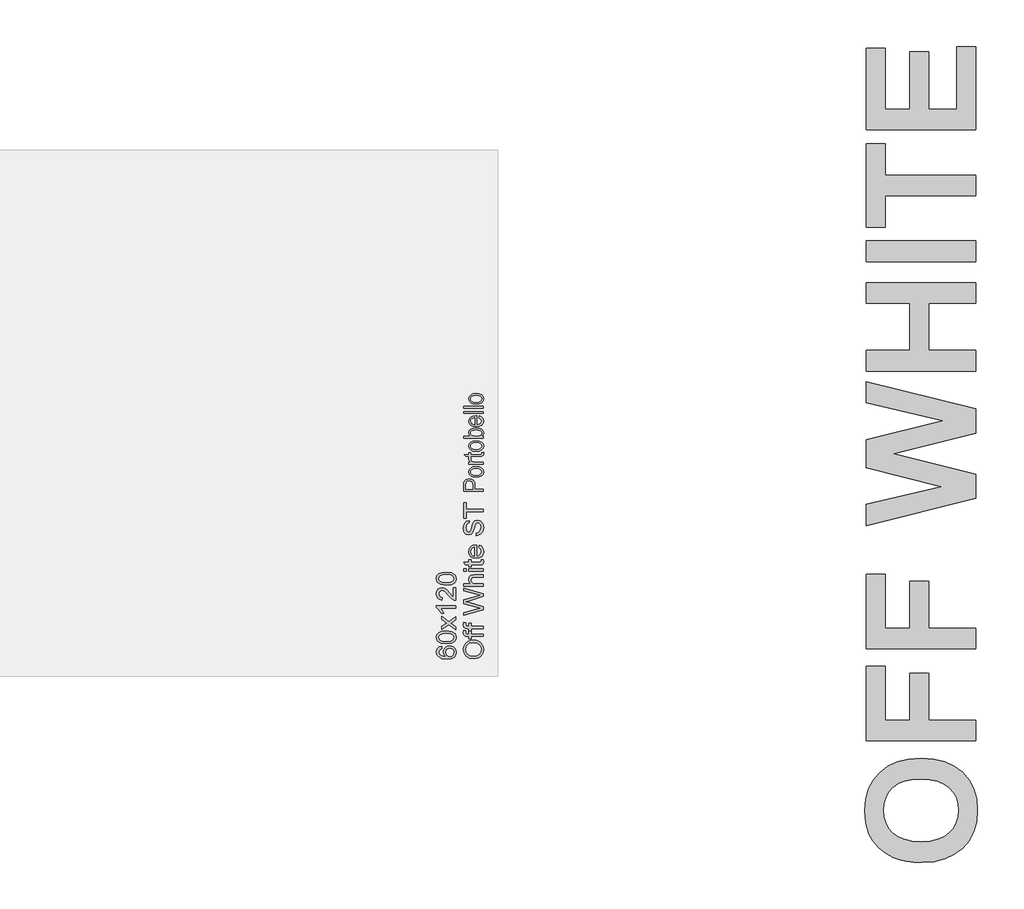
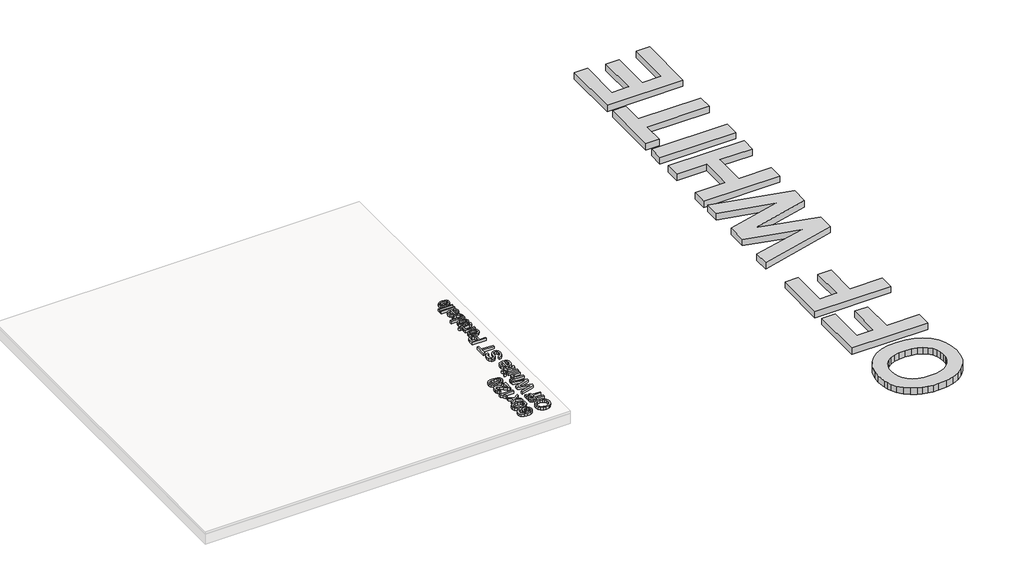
# One storey, part 5 of 12: 4 proxies.
"""IFC4 building model written with IfcOpenShell, lengths in millimetres."""

from ifc_helpers import new_model, si_unit, frame, origin, origin_with_axes, place, context, project, spatial, polyline, outline, extrude, element, save

model = new_model("IFC4")

# Units and contexts
model_context = context("Model", 3, world=origin())
ifc_project = project(units=[si_unit("LENGTHUNIT", "METRE", prefix="MILLI")], contexts=[model_context])

# Site, building, storey
site = spatial("IfcSite", under=ifc_project)
building = spatial("IfcBuilding", under=site)
storey = spatial("IfcBuildingStorey", under=building, Name="PORTOBELLO - SHOWROOM", Elevation=0.0)

# Proxies
placement = place(None, origin())
element("IfcBuildingElementProxy", 1, Name="10mm Arial", ObjectType="10mm Arial", at=placement, inside=storey, context=model_context, shape_type="SweptSolid", body=[
    extrude(outline(polyline([(-5733.4581519, -2756.0975392), (-5755.672093, -2752.749813), (-5772.4781688, -2742.7066346), (-5783.0547762, -2727.3720867), (-5786.580312, -2708.1502525), (-5784.924843, -2694.9739457), (-5779.958436, -2683.1588023), (-5772.030579, -2673.3486157), (-5761.4907599, -2666.1871796), (-5748.847882, -2661.8093838), (-5734.6108488, -2660.3501186), (-5720.1837432, -2661.8860259), (-5707.3630557, -2666.4937479), (-5696.8048424, -2673.9188328), (-5689.1651596, -2683.906829), (-5684.5298465, -2695.6208049), (-5682.9847421, -2708.2238289), (-5684.6923277, -2721.6024708), (-5689.8150845, -2733.4850592), (-5697.8900943, -2743.2707203), (-5708.4544389, -2750.3585801), (-5733.4581519, -2756.0975392)]), holes=[polyline([(-5733.3355245, -2743.5405004), (-5717.620832, -2741.0297058), (-5705.646273, -2733.497322), (-5698.0679039, -2722.1757536), (-5695.5417809, -2708.2974053), (-5698.0924294, -2694.2167219), (-5705.7443749, -2682.8767594), (-5718.0868158, -2675.3995579), (-5734.7089506, -2672.9071573), (-5755.4329697, -2677.1745885), (-5769.1549681, -2689.6457881), (-5774.0232732, -2708.0766761), (-5771.6780255, -2721.5840767), (-5764.6422823, -2733.0681263), (-5752.1250974, -2740.9224069), (-5733.3355245, -2743.5405004)])]), frame((0.0, 0.0, 19.0), z_axis=(0.0, 0.0, 1.0), x_axis=(1.0, 0.0, 0.0)), (0.0, 0.0, 1.0), 20.0),
    extrude(outline(polyline([(-5684.554372, -2600.7041844), (-5745.769936, -2600.7041844), (-5745.769936, -2611.6915934), (-5758.3269747, -2611.6915934), (-5758.3269747, -2600.7041844), (-5765.758191, -2600.7041844), (-5776.2305652, -2599.3798092), (-5783.7108324, -2592.9541371), (-5786.580312, -2580.2989964), (-5785.2068858, -2568.8456036), (-5773.434662, -2570.6850136), (-5774.0232732, -2577.9200262), (-5771.9386085, -2585.8294891), (-5764.1640357, -2588.1471457), (-5758.3269747, -2588.1471457), (-5758.3269747, -2574.020477), (-5745.769936, -2574.020477), (-5745.769936, -2588.1471457), (-5684.554372, -2588.1471457), (-5684.554372, -2600.7041844)])), frame((0.0, 0.0, 19.0), z_axis=(0.0, 0.0, 1.0), x_axis=(1.0, 0.0, 0.0)), (0.0, 0.0, 1.0), 20.0),
    extrude(outline(polyline([(-5684.554372, -2641.5145604), (-5745.769936, -2641.5145604), (-5745.769936, -2652.5019693), (-5758.3269747, -2652.5019693), (-5758.3269747, -2641.5145604), (-5765.758191, -2641.5145604), (-5776.2305652, -2640.1901852), (-5783.7108324, -2633.7645131), (-5786.580312, -2621.1093724), (-5785.2068858, -2609.6559796), (-5773.434662, -2611.4953896), (-5774.0232732, -2618.7304022), (-5771.9386085, -2626.6398651), (-5764.1640357, -2628.9575217), (-5758.3269747, -2628.9575217), (-5758.3269747, -2614.830853), (-5745.769936, -2614.830853), (-5745.769936, -2628.9575217), (-5684.554372, -2628.9575217), (-5684.554372, -2641.5145604)])), frame((0.0, 0.0, 19.0), z_axis=(0.0, 0.0, 1.0), x_axis=(1.0, 0.0, 0.0)), (0.0, 0.0, 1.0), 20.0),
    extrude(outline(polyline([(-5684.554372, -2504.2455253), (-5785.0106821, -2531.6404712), (-5785.0106821, -2518.691025), (-5718.9881267, -2502.7985228), (-5698.6074642, -2497.8934295), (-5716.6336819, -2492.6449797), (-5785.0106821, -2472.730301), (-5785.0106821, -2454.0664212), (-5735.4447146, -2439.596396), (-5698.6074642, -2428.8297163), (-5718.3995155, -2424.0717758), (-5785.0106821, -2408.0566463), (-5785.0106821, -2395.0826746), (-5684.554372, -2422.453095), (-5684.554372, -2435.8930506), (-5762.0548456, -2460.001584), (-5772.8705763, -2463.3615729), (-5759.8475536, -2467.1384947), (-5684.554372, -2489.0887871), (-5684.554372, -2504.2455253)])), frame((0.0, 0.0, 19.0), z_axis=(0.0, 0.0, 1.0), x_axis=(1.0, 0.0, 0.0)), (0.0, 0.0, 1.0), 20.0),
    extrude(outline(polyline([(-5684.554372, -2384.0952657), (-5785.0106821, -2384.0952657), (-5785.0106821, -2371.5382269), (-5748.0753298, -2371.5382269), (-5756.9412859, -2361.7464345), (-5759.8966046, -2349.6860364), (-5756.6715057, -2335.5838932), (-5747.7564987, -2327.0245055), (-5731.2508599, -2324.4493315), (-5684.554372, -2324.4493315), (-5684.554372, -2337.0063703), (-5729.9510102, -2337.0063703), (-5743.194762, -2341.0040213), (-5747.3395658, -2352.3347868), (-5744.5436626, -2362.6232199), (-5736.9652935, -2369.4903505), (-5723.7460672, -2371.5382269), (-5684.554372, -2371.5382269), (-5684.554372, -2384.0952657)])), frame((0.0, 0.0, 19.0), z_axis=(0.0, 0.0, 1.0), x_axis=(1.0, 0.0, 0.0)), (0.0, 0.0, 1.0), 20.0),
    extrude(outline(polyline([(-5772.4536433, -2307.1834032), (-5785.0106821, -2307.1834032), (-5785.0106821, -2294.6263644), (-5772.4536433, -2294.6263644), (-5772.4536433, -2307.1834032)])), frame((0.0, 0.0, 19.0), z_axis=(0.0, 0.0, 1.0), x_axis=(1.0, 0.0, 0.0)), (0.0, 0.0, 1.0), 20.0),
    extrude(outline(polyline([(-5684.554372, -2307.1834032), (-5758.3269747, -2307.1834032), (-5758.3269747, -2294.6263644), (-5684.554372, -2294.6263644), (-5684.554372, -2307.1834032)])), frame((0.0, 0.0, 19.0), z_axis=(0.0, 0.0, 1.0), x_axis=(1.0, 0.0, 0.0)), (0.0, 0.0, 1.0), 20.0),
    extrude(outline(polyline([(-5695.0267461, -2249.1070989), (-5684.18649, -2247.5374691), (-5682.9847421, -2256.9307227), (-5685.0694068, -2267.4521477), (-5690.5385857, -2272.7005975), (-5704.7878817, -2274.2211764), (-5745.769936, -2274.2211764), (-5745.769936, -2283.6389555), (-5758.3269747, -2283.6389555), (-5758.3269747, -2274.2211764), (-5776.2550906, -2274.2211764), (-5783.637256, -2261.6641377), (-5758.3269747, -2261.6641377), (-5758.3269747, -2249.1070989), (-5745.769936, -2249.1070989), (-5745.769936, -2261.6641377), (-5705.1557637, -2261.6641377), (-5698.6810406, -2261.0019501), (-5696.3879095, -2258.8559718), (-5695.5417809, -2254.5762779), (-5695.0267461, -2249.1070989)])), frame((0.0, 0.0, 19.0), z_axis=(0.0, 0.0, 1.0), x_axis=(1.0, 0.0, 0.0)), (0.0, 0.0, 1.0), 20.0),
    extrude(outline(polyline([(-5706.5291898, -2184.899428), (-5704.95956, -2172.5876439), (-5695.6828023, -2177.0236876), (-5688.7482267, -2184.1023504), (-5684.4256133, -2193.6642165), (-5682.9847421, -2205.5498707), (-5685.4710113, -2220.2835446), (-5692.9298187, -2231.6204414), (-5704.8767865, -2238.8493226), (-5720.8275367, -2241.2589497), (-5737.3147814, -2238.8247971), (-5749.6449596, -2231.5223395), (-5757.3336933, -2220.3387269), (-5759.8966046, -2206.2611092), (-5757.3398247, -2192.6218842), (-5749.6694851, -2181.7233801), (-5737.3638324, -2174.5772724), (-5720.9011131, -2172.1952364), (-5717.5165987, -2172.2688128), (-5717.5165987, -2228.7019109), (-5708.1172137, -2226.5283415), (-5701.2071636, -2221.4791611), (-5696.9581266, -2214.1920319), (-5695.5417809, -2205.304616), (-5698.1660058, -2192.9928319), (-5706.5291898, -2184.899428)]), holes=[polyline([(-5730.0736375, -2228.7019109), (-5730.0736375, -2184.7522752), (-5741.4534539, -2189.7799958), (-5745.8680378, -2197.1008475), (-5747.3395658, -2206.3101601), (-5742.642939, -2221.7734667), (-5737.1523002, -2226.638706), (-5730.0736375, -2228.7019109)])]), frame((0.0, 0.0, 19.0), z_axis=(0.0, 0.0, 1.0), x_axis=(1.0, 0.0, 0.0)), (0.0, 0.0, 1.0), 20.0),
    extrude(outline(polyline([(-5719.0862286, -2123.5367112), (-5719.0862286, -2110.9796724), (-5706.5169271, -2106.9329705), (-5698.570676, -2097.0492076), (-5695.5417809, -2081.9905712), (-5697.834912, -2068.8694467), (-5704.1379568, -2060.3958981), (-5712.5624545, -2057.6122577), (-5720.398341, -2059.6969223), (-5726.1005119, -2068.2317846), (-5730.8952406, -2086.5155198), (-5737.0879209, -2106.1972065), (-5746.4321235, -2116.8780471), (-5758.9155859, -2120.3974515), (-5773.1280937, -2116.0441812), (-5783.1590094, -2103.3277269), (-5786.580312, -2084.712898), (-5782.9995939, -2064.8472703), (-5772.4781688, -2051.6035184), (-5756.7573449, -2046.6248488), (-5756.7573449, -2059.1818875), (-5764.2498748, -2061.4872814), (-5769.6577402, -2066.2942728), (-5774.0232732, -2084.2223887), (-5769.7067911, -2102.1995555), (-5759.2834679, -2107.8404128), (-5750.5769274, -2103.8427617), (-5743.562644, -2083.3394719), (-5737.2595991, -2061.1193994), (-5727.0815306, -2048.9670308), (-5712.8812856, -2045.0552189), (-5697.8594375, -2049.555642), (-5686.896554, -2062.5050882), (-5682.9847421, -2081.5000619), (-5687.2031223, -2103.9286009), (-5699.9073139, -2118.1165832), (-5719.0862286, -2123.5367112)])), frame((0.0, 0.0, 19.0), z_axis=(0.0, 0.0, 1.0), x_axis=(1.0, 0.0, 0.0)), (0.0, 0.0, 1.0), 20.0),
    extrude(outline(polyline([(-5684.554372, -2001.1055832), (-5772.4536433, -2001.1055832), (-5772.4536433, -2034.06781), (-5785.0106821, -2034.06781), (-5785.0106821, -1955.5863177), (-5772.4536433, -1955.5863177), (-5772.4536433, -1988.5485445), (-5684.554372, -1988.5485445), (-5684.554372, -2001.1055832)])), frame((0.0, 0.0, 19.0), z_axis=(0.0, 0.0, 1.0), x_axis=(1.0, 0.0, 0.0)), (0.0, 0.0, 1.0), 20.0),
])
element("IfcBuildingElementProxy", 2, Name="10mm Arial", ObjectType="10mm Arial", at=placement, inside=storey, context=model_context, shape_type="SweptSolid", body=[
    extrude(outline(polyline([(-5898.3269747, -2691.7427155), (-5896.7573449, -2704.2997543), (-5907.229719, -2709.0576947), (-5912.4536433, -2721.639259), (-5909.4124855, -2732.9700244), (-5897.9958809, -2741.5416749), (-5875.6163929, -2745.1101303), (-5885.6350459, -2734.0368822), (-5888.9091956, -2720.3148838), (-5886.6712468, -2708.7143382), (-5879.9574004, -2698.9777281), (-5869.6996241, -2692.3742463), (-5856.8298857, -2690.1730857), (-5839.5026437, -2694.3178895), (-5827.2399105, -2705.7222313), (-5822.9847421, -2722.1788192), (-5825.8051707, -2736.4250495), (-5834.2664566, -2747.7711434), (-5849.2024656, -2755.1931626), (-5871.4470636, -2757.667169), (-5896.4569079, -2754.9203168), (-5913.5572893, -2746.6797601), (-5922.1473339, -2735.4287024), (-5925.0106821, -2720.8544441), (-5923.2387172, -2709.8363783), (-5917.9228223, -2701.0133418), (-5909.4799305, -2694.8329243), (-5898.3269747, -2691.7427155)]), holes=[polyline([(-5857.0260894, -2745.1101303), (-5846.1490451, -2742.2038625), (-5838.2518449, -2734.4783406), (-5835.5417809, -2723.1598379), (-5836.9458638, -2714.8732959), (-5841.1581127, -2708.358719), (-5847.7799886, -2704.1372731), (-5856.4129527, -2702.7301244), (-5864.6994947, -2704.118879), (-5871.0178679, -2708.2851426), (-5875.0185846, -2714.9100841), (-5876.3521569, -2723.6748727), (-5871.0178679, -2738.8683991), (-5864.8527788, -2743.5496975), (-5857.0260894, -2745.1101303)])]), frame((0.0, 0.0, 19.0), z_axis=(0.0, 0.0, 1.0), x_axis=(1.0, 0.0, 0.0)), (0.0, 0.0, 1.0), 20.0),
    extrude(outline(polyline([(-5873.9731866, -2679.1856767), (-5902.8764487, -2675.494594), (-5919.5415031, -2664.5317106), (-5925.0106821, -2646.22345), (-5921.7733205, -2631.5572211), (-5912.4413806, -2621.4282035), (-5897.578948, -2615.5420916), (-5873.9731866, -2613.2612232), (-5845.1925519, -2616.9155177), (-5828.4907093, -2627.8416129), (-5824.3612339, -2636.0729726), (-5822.9847421, -2646.22345), (-5825.3759751, -2659.2709981), (-5832.549674, -2669.1792865), (-5849.5396908, -2676.6840792), (-5873.9731866, -2679.1856767)]), holes=[polyline([(-5873.9977121, -2666.628638), (-5854.2455147, -2665.15711), (-5842.8135817, -2660.742526), (-5837.3597311, -2654.1697011), (-5835.5417809, -2646.22345), (-5837.3658624, -2638.2771989), (-5842.8381071, -2631.7043739), (-5854.2761715, -2627.2897899), (-5873.9977121, -2625.818262), (-5893.3053855, -2627.240739), (-5904.8262233, -2631.5081702), (-5910.5467883, -2638.0687324), (-5912.4536433, -2646.3706028), (-5910.7736489, -2654.2310147), (-5905.7336656, -2660.5463223), (-5893.4954579, -2665.1080591), (-5873.9977121, -2666.628638)])]), frame((0.0, 0.0, 19.0), z_axis=(0.0, 0.0, 1.0), x_axis=(1.0, 0.0, 0.0)), (0.0, 0.0, 1.0), 20.0),
    extrude(outline(polyline([(-5824.554372, -2606.9827038), (-5861.6614025, -2580.1518436), (-5898.3269747, -2605.413074), (-5898.3269747, -2590.3544376), (-5880.6441135, -2578.1652809), (-5872.3299804, -2572.4508472), (-5879.14806, -2567.496703), (-5898.3269747, -2553.615289), (-5898.3269747, -2538.5076018), (-5861.6368771, -2565.0441564), (-5824.554372, -2539.4886204), (-5824.554372, -2554.5717822), (-5846.8725463, -2569.9737751), (-5850.9682992, -2572.7696783), (-5824.554372, -2591.8750165), (-5824.554372, -2606.9827038)])), frame((0.0, 0.0, 19.0), z_axis=(0.0, 0.0, 1.0), x_axis=(1.0, 0.0, 0.0)), (0.0, 0.0, 1.0), 20.0),
    extrude(outline(polyline([(-5824.554372, -2484.5515758), (-5824.554372, -2497.1086146), (-5902.8396605, -2497.1086146), (-5894.3661119, -2509.0034658), (-5888.0262789, -2522.2226921), (-5899.8966046, -2522.2226921), (-5911.6443029, -2503.8163296), (-5925.0106821, -2492.6449797), (-5925.0106821, -2484.5515758), (-5824.554372, -2484.5515758)])), frame((0.0, 0.0, 19.0), z_axis=(0.0, 0.0, 1.0), x_axis=(1.0, 0.0, 0.0)), (0.0, 0.0, 1.0), 20.0),
    extrude(outline(polyline([(-5837.1114107, -2390.3737851), (-5824.554372, -2390.3737851), (-5824.554372, -2456.2982386), (-5833.2118616, -2454.9493379), (-5846.5414525, -2447.3096552), (-5861.0973168, -2431.5765685), (-5882.0175396, -2409.908319), (-5896.2423101, -2404.5004537), (-5907.7570165, -2409.6140134), (-5912.4536433, -2422.9681298), (-5907.8673811, -2436.886332), (-5895.187715, -2442.17157), (-5896.7573449, -2454.7286087), (-5908.9035821, -2451.6843852), (-5917.7756695, -2445.1023632), (-5923.201929, -2435.3258992), (-5925.0106821, -2422.6983497), (-5922.9995939, -2409.9788297), (-5916.9663291, -2400.2207598), (-5907.9532203, -2394.0127511), (-5897.0025995, -2391.9434149), (-5885.0954856, -2394.1752323), (-5872.7837015, -2401.5941859), (-5855.5790869, -2419.5836155), (-5843.5002947, -2434.0291151), (-5837.1114107, -2439.6944979), (-5837.1114107, -2390.3737851)])), frame((0.0, 0.0, 19.0), z_axis=(0.0, 0.0, 1.0), x_axis=(1.0, 0.0, 0.0)), (0.0, 0.0, 1.0), 20.0),
    extrude(outline(polyline([(-5873.9731866, -2377.8167463), (-5902.8764487, -2374.1256636), (-5919.5415031, -2363.1627801), (-5925.0106821, -2344.8545195), (-5921.7733205, -2330.1882906), (-5912.4413806, -2320.059273), (-5897.578948, -2314.1731611), (-5873.9731866, -2311.8922927), (-5845.1925519, -2315.5465872), (-5828.4907093, -2326.4726825), (-5824.3612339, -2334.7040421), (-5822.9847421, -2344.8545195), (-5825.3759751, -2357.9020676), (-5832.549674, -2367.810356), (-5849.5396908, -2375.3151487), (-5873.9731866, -2377.8167463)]), holes=[polyline([(-5873.9977121, -2365.2597075), (-5854.2455147, -2363.7881795), (-5842.8135817, -2359.3735956), (-5837.3597311, -2352.8007706), (-5835.5417809, -2344.8545195), (-5837.3658624, -2336.9082684), (-5842.8381071, -2330.3354434), (-5854.2761715, -2325.9208595), (-5873.9977121, -2324.4493315), (-5893.3053855, -2325.8718086), (-5904.8262233, -2330.1392397), (-5910.5467883, -2336.699802), (-5912.4536433, -2345.0016723), (-5910.7736489, -2352.8620843), (-5905.7336656, -2359.1773919), (-5893.4954579, -2363.7391286), (-5873.9977121, -2365.2597075)])]), frame((0.0, 0.0, 19.0), z_axis=(0.0, 0.0, 1.0), x_axis=(1.0, 0.0, 0.0)), (0.0, 0.0, 1.0), 20.0),
])
element("IfcBuildingElementProxy", 3, Name="10mm Arial Narrow", ObjectType="10mm Arial Narrow", at=placement, inside=storey, context=model_context, shape_type="SweptSolid", body=[
    extrude(outline(polyline([(-5684.554372, -1896.6698539), (-5785.2729757, -1896.6698539), (-5785.2729757, -1865.3729692), (-5783.394655, -1849.0772677), (-5773.9142118, -1837.6042816), (-5756.895103, -1833.3146032), (-5744.8192774, -1835.1009116), (-5735.1928837, -1840.4598368), (-5728.8916253, -1850.2036256), (-5726.7912058, -1865.1445248), (-5726.7912058, -1886.9228923), (-5684.554372, -1886.9228923), (-5684.554372, -1896.6698539)]), holes=[polyline([(-5738.1626611, -1886.9228923), (-5738.1626611, -1863.9515373), (-5742.6934753, -1848.0873419), (-5756.362066, -1843.0615648), (-5766.5278424, -1845.5363793), (-5772.3277923, -1851.5140081), (-5773.9015204, -1864.1799817), (-5773.9015204, -1886.9228923), (-5738.1626611, -1886.9228923)])]), frame((0.0, 0.0, 19.0), z_axis=(0.0, 0.0, 1.0), x_axis=(1.0, 0.0, 0.0)), (0.0, 0.0, 1.0), 20.0),
    extrude(outline(polyline([(-5721.1054782, -1825.1921351), (-5737.6962537, -1823.2376663), (-5749.6483385, -1817.3742596), (-5756.8728931, -1808.5156929), (-5759.281078, -1797.5757438), (-5756.8728931, -1786.7627082), (-5749.6483385, -1777.8787588), (-5737.8866241, -1771.939204), (-5721.8669595, -1769.9593524), (-5704.705073, -1771.9043028), (-5692.5626178, -1777.7391539), (-5685.3380632, -1786.588202), (-5682.9298783, -1797.5757438), (-5685.3444089, -1808.436372), (-5692.5880005, -1817.3108029), (-5704.546431, -1823.2218021), (-5721.1054782, -1825.1921351)]), holes=[polyline([(-5721.1308609, -1815.4451735), (-5708.5791095, -1814.1411366), (-5699.7078514, -1810.229026), (-5694.4345929, -1804.3878293), (-5692.67684, -1797.2965339), (-5694.450457, -1790.5764608), (-5699.7713082, -1784.8843875), (-5708.6584304, -1781.0008324), (-5721.1308609, -1779.7063141), (-5733.6445382, -1781.0103509), (-5742.5031049, -1784.9224615), (-5747.7763635, -1790.7636583), (-5749.5341163, -1797.8549536), (-5747.7668449, -1804.6226194), (-5742.4650308, -1810.3051742), (-5733.5969456, -1814.1601737), (-5721.1308609, -1815.4451735)])]), frame((0.0, 0.0, 19.0), z_axis=(0.0, 0.0, 1.0), x_axis=(1.0, 0.0, 0.0)), (0.0, 0.0, 1.0), 20.0),
    extrude(outline(polyline([(-5692.67684, -1698.4816336), (-5682.9298783, -1696.85714), (-5682.9298783, -1704.2181267), (-5685.0493349, -1712.492891), (-5690.8492847, -1716.8079522), (-5705.4951099, -1717.9755569), (-5747.9096227, -1717.9755569), (-5747.9096227, -1726.098025), (-5751.1586099, -1726.098025), (-5746.2851291, -1727.7225186), (-5747.9096227, -1735.286567), (-5745.5871045, -1741.3657266), (-5739.1018214, -1745.2365903), (-5723.6945148, -1747.2164419), (-5684.554372, -1747.2164419), (-5684.554372, -1756.9634036), (-5757.6565844, -1756.9634036), (-5757.6565844, -1747.2164419), (-5747.9603881, -1747.2164419), (-5757.0473993, -1740.9722946), (-5759.281078, -1734.575851), (-5757.6565844, -1726.098025), (-5757.6565844, -1717.9755569), (-5773.9015204, -1717.9755569), (-5782.0239885, -1708.2285953), (-5757.6565844, -1708.2285953), (-5757.6565844, -1698.4816336), (-5747.9096227, -1698.4816336), (-5747.9096227, -1708.2285953), (-5703.2614312, -1708.2285953), (-5695.2658767, -1707.3655831), (-5692.67684, -1702.7459294), (-5692.67684, -1698.4816336)])), frame((0.0, 0.0, 19.0), z_axis=(0.0, 0.0, 1.0), x_axis=(1.0, 0.0, 0.0)), (0.0, 0.0, 1.0), 20.0),
    extrude(outline(polyline([(-5721.1054782, -1691.9836592), (-5737.6962537, -1690.0291903), (-5749.6483385, -1684.1657837), (-5756.8728931, -1675.307217), (-5759.281078, -1664.3672679), (-5756.8728931, -1653.5542323), (-5749.6483385, -1644.6702828), (-5737.8866241, -1638.7307281), (-5721.8669595, -1636.7508765), (-5704.705073, -1638.6958269), (-5692.5626178, -1644.5306779), (-5685.3380632, -1653.3797261), (-5682.9298783, -1664.3672679), (-5685.3444089, -1675.227896), (-5692.5880005, -1684.1023269), (-5704.546431, -1690.0133261), (-5721.1054782, -1691.9836592)]), holes=[polyline([(-5721.1308609, -1682.2366975), (-5708.5791095, -1680.9326607), (-5699.7078514, -1677.0205501), (-5694.4345929, -1671.1793534), (-5692.67684, -1664.088058), (-5694.450457, -1657.3679848), (-5699.7713082, -1651.6759115), (-5708.6584304, -1647.7923565), (-5721.1308609, -1646.4978382), (-5733.6445382, -1647.801875), (-5742.5031049, -1651.7139856), (-5747.7763635, -1657.5551823), (-5749.5341163, -1664.6464777), (-5747.7668449, -1671.4141434), (-5742.4650308, -1677.0966982), (-5733.5969456, -1680.9516977), (-5721.1308609, -1682.2366975)])]), frame((0.0, 0.0, 19.0), z_axis=(0.0, 0.0, 1.0), x_axis=(1.0, 0.0, 0.0)), (0.0, 0.0, 1.0), 20.0),
    extrude(outline(polyline([(-5684.554372, -1614.007966), (-5684.554372, -1623.7549276), (-5785.2729757, -1623.7549276), (-5785.2729757, -1614.007966), (-5749.8640916, -1614.007966), (-5756.9458684, -1606.6089052), (-5759.281078, -1597.4076719), (-5755.080239, -1584.5259452), (-5742.3508086, -1575.2485638), (-5721.6638978, -1571.7711321), (-5705.2095544, -1573.7033911), (-5693.0068153, -1579.5001681), (-5685.4491126, -1587.8732905), (-5682.9298783, -1597.5345855), (-5685.5442978, -1606.8754237), (-5693.3114078, -1614.007966), (-5684.554372, -1614.007966)]), holes=[polyline([(-5721.6638978, -1614.007966), (-5704.4163446, -1611.9265835), (-5695.6846915, -1606.0377942), (-5692.67684, -1597.5853509), (-5694.4663212, -1591.6426233), (-5699.834765, -1586.404266), (-5721.2577744, -1581.5180938), (-5742.6934753, -1586.226587), (-5747.8239561, -1591.47129), (-5749.5341163, -1597.7884126), (-5747.7446351, -1603.7660414), (-5742.3761914, -1609.058337), (-5721.6638978, -1614.007966)])]), frame((0.0, 0.0, 19.0), z_axis=(0.0, 0.0, 1.0), x_axis=(1.0, 0.0, 0.0)), (0.0, 0.0, 1.0), 20.0),
    extrude(outline(polyline([(-5707.2972825, -1519.7873367), (-5705.6727889, -1510.040375), (-5695.7862223, -1513.7399054), (-5688.6663714, -1519.5588922), (-5684.3640016, -1527.2625455), (-5682.9298783, -1536.6160751), (-5685.3444089, -1548.2096291), (-5692.5880005, -1557.3537514), (-5704.3941347, -1563.2933061), (-5720.4962931, -1565.2731577), (-5737.1632167, -1563.2837876), (-5749.343746, -1557.3156773), (-5756.796745, -1548.3016415), (-5759.281078, -1537.1744948), (-5756.8824116, -1526.4915456), (-5749.6864126, -1517.7440283), (-5737.946908, -1511.9091772), (-5721.917725, -1509.9642269), (-5718.6687377, -1510.040375), (-5718.6687377, -1555.5261961), (-5699.2255799, -1549.5231845), (-5694.314025, -1543.5931483), (-5692.67684, -1536.4891616), (-5696.3319506, -1526.3106938), (-5707.2972825, -1519.7873367)]), holes=[polyline([(-5728.4156994, -1554.8662455), (-5728.4156994, -1519.7873367), (-5742.6807839, -1524.0516324), (-5747.8207832, -1529.8769649), (-5749.5341163, -1537.0983467), (-5743.823006, -1549.3074315), (-5728.4156994, -1554.8662455)])]), frame((0.0, 0.0, 19.0), z_axis=(0.0, 0.0, 1.0), x_axis=(1.0, 0.0, 0.0)), (0.0, 0.0, 1.0), 20.0),
    extrude(outline(polyline([(-5684.554372, -1497.0444261), (-5785.2729757, -1497.0444261), (-5785.2729757, -1487.2974645), (-5684.554372, -1487.2974645), (-5684.554372, -1497.0444261)])), frame((0.0, 0.0, 19.0), z_axis=(0.0, 0.0, 1.0), x_axis=(1.0, 0.0, 0.0)), (0.0, 0.0, 1.0), 20.0),
    extrude(outline(polyline([(-5684.554372, -1471.0525284), (-5785.2729757, -1471.0525284), (-5785.2729757, -1461.3055667), (-5684.554372, -1461.3055667), (-5684.554372, -1471.0525284)])), frame((0.0, 0.0, 19.0), z_axis=(0.0, 0.0, 1.0), x_axis=(1.0, 0.0, 0.0)), (0.0, 0.0, 1.0), 20.0),
    extrude(outline(polyline([(-5721.1054782, -1449.9341115), (-5737.6962537, -1447.9796426), (-5749.6483385, -1442.116236), (-5756.8728931, -1433.2576693), (-5759.281078, -1422.3177201), (-5756.8728931, -1411.5046845), (-5749.6483385, -1402.6207351), (-5737.8866241, -1396.6811804), (-5721.8669595, -1394.7013288), (-5704.705073, -1396.6462791), (-5692.5626178, -1402.4811302), (-5685.3380632, -1411.3301784), (-5682.9298783, -1422.3177201), (-5685.3444089, -1433.1783483), (-5692.5880005, -1442.0527792), (-5704.546431, -1447.9637784), (-5721.1054782, -1449.9341115)]), holes=[polyline([(-5721.1308609, -1440.1871498), (-5708.5791095, -1438.883113), (-5699.7078514, -1434.9710024), (-5694.4345929, -1429.1298056), (-5692.67684, -1422.0385103), (-5694.450457, -1415.3184371), (-5699.7713082, -1409.6263638), (-5708.6584304, -1405.7428088), (-5721.1308609, -1404.4482904), (-5733.6445382, -1405.7523273), (-5742.5031049, -1409.6644379), (-5747.7763635, -1415.5056346), (-5749.5341163, -1422.59693), (-5747.7668449, -1429.3645957), (-5742.4650308, -1435.0471505), (-5733.5969456, -1438.90215), (-5721.1308609, -1440.1871498)])]), frame((0.0, 0.0, 19.0), z_axis=(0.0, 0.0, 1.0), x_axis=(1.0, 0.0, 0.0)), (0.0, 0.0, 1.0), 20.0),
])
element("IfcBuildingElementProxy", 4, Name="550mm Arial", ObjectType="550mm Arial", at=placement, inside=storey, context=model_context, shape_type="SweptSolid", body=[
    extrude(outline(polyline([(-3434.5838262, -3800.9639475), (-3475.657048, -3799.389561), (-3513.2857557, -3794.6664015), (-3547.4699492, -3786.7944688), (-3578.2096286, -3775.7737632), (-3618.7609544, -3753.5583865), (-3654.9631461, -3724.4887746), (-3684.5894472, -3690.4437534), (-3705.4131009, -3653.3021487), (-3715.0942733, -3626.5636727), (-3722.0093964, -3597.8419915), (-3727.5414949, -3534.4490138), (-3722.7444001, -3476.6055311), (-3708.3531155, -3424.850836), (-3684.3676413, -3379.1849286), (-3650.7879774, -3339.6078089), (-3608.6666143, -3307.6416737), (-3559.0560423, -3284.80872), (-3501.9562615, -3271.1089478), (-3437.367272, -3266.5423571), (-3373.2175449, -3271.0741548), (-3316.4613457, -3284.6695478), (-3267.0986744, -3307.3285361), (-3225.129531, -3339.0511198), (-3191.6411989, -3378.3672914), (-3167.7209617, -3423.8070439), (-3153.3688194, -3475.370377), (-3148.5847719, -3533.0572909), (-3153.3470737, -3591.3530835), (-3167.633979, -3643.35133), (-3191.4454878, -3689.0520305), (-3224.7816002, -3728.4551849), (-3266.46805, -3760.1777685), (-3315.3305709, -3782.8367569), (-3371.369163, -3796.4321499), (-3434.5838262, -3800.9639475)]), holes=[polyline([(-3438.4806503, -3694.0796295), (-3394.0933883, -3691.2396449), (-3355.4295867, -3682.7196913), (-3322.4892455, -3668.5197687), (-3295.2723647, -3648.639877), (-3273.9616079, -3624.3847565), (-3258.7396388, -3597.0591474), (-3249.6064573, -3566.6630496), (-3246.5620635, -3533.1964632), (-3249.5847116, -3499.7646698), (-3258.6526561, -3469.4729512), (-3273.7658969, -3442.3213075), (-3294.924434, -3418.3097384), (-3322.1282674, -3398.6733983), (-3355.3773971, -3384.647441), (-3394.6718231, -3376.2318666), (-3440.0115455, -3373.4266752), (-3484.7206434, -3376.1579314), (-3523.3757467, -3384.3516999), (-3555.9768554, -3398.0079808), (-3582.5239696, -3417.126774), (-3603.1040718, -3440.7686666), (-3617.8041449, -3467.9942457), (-3626.6241887, -3498.8035112), (-3629.5642033, -3533.1964632), (-3626.5893956, -3567.6242082), (-3617.6649726, -3598.5378529), (-3602.7909342, -3625.9373974), (-3581.9672804, -3649.8228415), (-3555.1505199, -3669.1851862), (-3522.2971614, -3683.0154325), (-3483.4072049, -3691.3135802), (-3438.4806503, -3694.0796295)])]), origin_with_axes(), (0.0, 0.0, 1.0), 50.0),
    extrude(outline(polyline([(-3157.4917984, -3177.472092), (-3718.6344684, -3177.472092), (-3718.6344684, -2794.4699522), (-3620.6571768, -2794.4699522), (-3620.6571768, -3070.5877739), (-3495.9588057, -3070.5877739), (-3495.9588057, -2830.0980582), (-3397.9815141, -2830.0980582), (-3397.9815141, -3070.5877739), (-3157.4917984, -3070.5877739), (-3157.4917984, -3177.472092)])), origin_with_axes(), (0.0, 0.0, 1.0), 50.0),
    extrude(outline(polyline([(-3157.4917984, -2705.3996871), (-3718.6344684, -2705.3996871), (-3718.6344684, -2322.3975473), (-3620.6571768, -2322.3975473), (-3620.6571768, -2598.515369), (-3495.9588057, -2598.515369), (-3495.9588057, -2358.0256533), (-3397.9815141, -2358.0256533), (-3397.9815141, -2598.515369), (-3157.4917984, -2598.515369), (-3157.4917984, -2705.3996871)])), origin_with_axes(), (0.0, 0.0, 1.0), 50.0),
    extrude(outline(polyline([(-3157.4917984, -1931.7409316), (-3718.6344684, -2073.0008051), (-3718.6344684, -1963.3330412), (-3333.1272274, -1872.5927087), (-3718.6344684, -1775.0329339), (-3718.6344684, -1631.4071315), (-3326.7253021, -1534.1257014), (-3718.6344684, -1443.5245411), (-3718.6344684, -1333.7176049), (-3157.4917984, -1472.333205), (-3157.4917984, -1599.1191604), (-3576.957078, -1703.359205), (-3157.4917984, -1809.4084894), (-3157.4917984, -1931.7409316)])), origin_with_axes(), (0.0, 0.0, 1.0), 50.0),
    extrude(outline(polyline([(-3157.4917984, -1280.2754459), (-3718.6344684, -1280.2754459), (-3718.6344684, -1173.3911278), (-3495.9588057, -1173.3911278), (-3495.9588057, -932.9014121), (-3718.6344684, -932.9014121), (-3718.6344684, -826.017094), (-3157.4917984, -826.017094), (-3157.4917984, -932.9014121), (-3397.9815141, -932.9014121), (-3397.9815141, -1173.3911278), (-3157.4917984, -1173.3911278), (-3157.4917984, -1280.2754459)])), origin_with_axes(), (0.0, 0.0, 1.0), 50.0),
    extrude(outline(polyline([(-3157.4917984, -719.1327759), (-3718.6344684, -719.1327759), (-3718.6344684, -612.2484578), (-3157.4917984, -612.2484578), (-3157.4917984, -719.1327759)])), origin_with_axes(), (0.0, 0.0, 1.0), 50.0),
    extrude(outline(polyline([(-3157.4917984, -380.6657686), (-3620.6571768, -380.6657686), (-3620.6571768, -540.9922458), (-3718.6344684, -540.9922458), (-3718.6344684, -113.4549734), (-3620.6571768, -113.4549734), (-3620.6571768, -273.7814505), (-3157.4917984, -273.7814505), (-3157.4917984, -380.6657686)])), origin_with_axes(), (0.0, 0.0, 1.0), 50.0),
    extrude(outline(polyline([(-3157.4917984, -42.1987614), (-3718.6344684, -42.1987614), (-3718.6344684, 376.4314845), (-3620.6571768, 376.4314845), (-3620.6571768, 64.6855567), (-3495.9588057, 64.6855567), (-3495.9588057, 358.6174315), (-3397.9815141, 358.6174315), (-3397.9815141, 64.6855567), (-3255.46909, 64.6855567), (-3255.46909, 385.338511), (-3157.4917984, 385.338511), (-3157.4917984, -42.1987614)])), origin_with_axes(), (0.0, 0.0, 1.0), 50.0),
])

save(model, "model.ifc")
